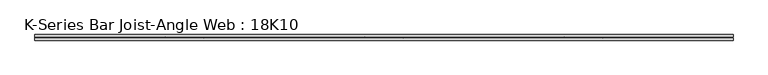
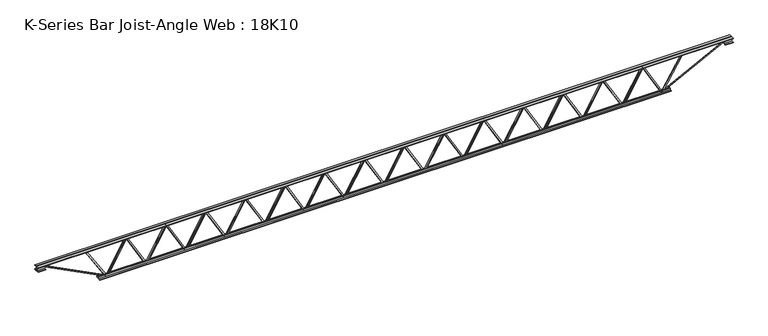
"""IFC4 building model written with IfcOpenShell, lengths in millimetres: beam geometry, K-Series Bar Joist-Angle Web : 18K10."""

import ifcopenshell
import ifcopenshell.guid

model = None  # the IFC model being written
_history = None  # IfcOwnerHistory: only IFC2X3 demands one
_inside = {}  # id of a spatial element -> (the spatial element, [elements in it])
_under = {}  # id of a project, library or spatial element -> (it, [spatial elements below it])
_declared = {}  # id of a project -> (the project, [libraries it declares])
_typed = {}  # id of a type object -> (the type object, [elements of that type])
_made_of = {}  # id of a material, layer set ... -> (it, [elements and type objects made of it])


def new_model(schema):
    """Start an empty IFC model of exactly this schema.

    Asked for "IFC4X3", IfcOpenShell would pick the latest addendum, in which some entities
    have other attributes; the version numbers below select the first issue.
    IFC2X3 requires an IfcOwnerHistory on every rooted entity: one is made here for all.
    """
    global model, _history
    if schema == "IFC4X3":
        model = ifcopenshell.file(schema_version=(4, 3, 0, 0))
    else:
        model = ifcopenshell.file(schema=schema)
    _inside.clear()
    _under.clear()
    _declared.clear()
    _typed.clear()
    _made_of.clear()
    _history = None
    if model.schema == "IFC2X3":
        org = make("IfcOrganization", Name="unknown")
        user = make(
            "IfcPersonAndOrganization",
            ThePerson=make("IfcPerson", FamilyName="unknown"),
            TheOrganization=org,
        )
        app = make(
            "IfcApplication",
            ApplicationDeveloper=org,
            Version="unknown",
            ApplicationFullName="unknown",
            ApplicationIdentifier="unknown",
        )
        _history = make(
            "IfcOwnerHistory",
            OwningUser=user,
            OwningApplication=app,
            ChangeAction="ADDED",
            CreationDate=0,
        )
    return model


def make(cls, **values):
    """One entity of the class cls with the attributes given. An attribute that is None is left unset."""
    return model.create_entity(
        cls, **{name: value for name, value in values.items() if value is not None}
    )


def rooted(cls, **values):
    """An entity with a GlobalId (a new one), such as an element, a storey or a relation."""
    return make(cls, GlobalId=ifcopenshell.guid.new(), OwnerHistory=_history, **values)


def si_unit(unit_type, name, prefix=None):
    """IfcSIUnit, for example si_unit("LENGTHUNIT", "METRE", prefix="MILLI")."""
    return make("IfcSIUnit", UnitType=unit_type, Prefix=prefix, Name=name)


def assignment(units):
    """IfcUnitAssignment: the units of a project."""
    return None if units is None else make("IfcUnitAssignment", Units=units)


def point(xyz):
    """IfcCartesianPoint."""
    return None if xyz is None else make("IfcCartesianPoint", Coordinates=xyz)


def direction(xyz):
    """IfcDirection."""
    return None if xyz is None else make("IfcDirection", DirectionRatios=xyz)


def frame(location, z_axis=None, x_axis=None):
    """IfcAxis2Placement3D, a coordinate frame: its origin and axes. An axis left out is left unset."""
    return make(
        "IfcAxis2Placement3D",
        Location=point(location),
        Axis=direction(z_axis),
        RefDirection=direction(x_axis),
    )


def origin():
    """The frame at (0, 0, 0) with its axes left unset."""
    return frame((0.0, 0.0, 0.0))


def place(relative_to, where):
    """IfcLocalPlacement: puts the frame where relative to a parent placement (None: the world)."""
    return make(
        "IfcLocalPlacement", PlacementRelTo=relative_to, RelativePlacement=where
    )


def context(
    kind, dimensions, precision=None, world=None, true_north=None, identifier=None
):
    """IfcGeometricRepresentationContext, for example the 3D "Model" context."""
    return make(
        "IfcGeometricRepresentationContext",
        ContextIdentifier=identifier,
        ContextType=kind,
        CoordinateSpaceDimension=dimensions,
        Precision=precision,
        WorldCoordinateSystem=world,
        TrueNorth=true_north,
    )


def project(units=None, contexts=None):
    """IfcProject with its units and contexts."""
    return rooted(
        "IfcProject",
        Name="project",
        RepresentationContexts=contexts,
        UnitsInContext=assignment(units),
    )


def spatial(cls, under=None, at=None, **own):
    """A site, building, storey or space (cls), placed at a placement, below another one or the project."""
    s = rooted(cls, ObjectPlacement=at, **own)
    if under is not None:
        _under.setdefault(under.id(), (under, []))[1].append(s)
    return s


def polyline(points):
    """IfcPolyline through the points."""
    return make("IfcPolyline", Points=[point(p) for p in points])


def outline(outer, holes=None, kind="AREA"):
    """IfcArbitraryClosedProfileDef: a profile drawn as a closed curve; with holes, ...WithVoids."""
    if holes is None:
        return make("IfcArbitraryClosedProfileDef", ProfileType=kind, OuterCurve=outer)
    return make(
        "IfcArbitraryProfileDefWithVoids",
        ProfileType=kind,
        OuterCurve=outer,
        InnerCurves=holes,
    )


def extrude(swept, where, along, depth):
    """IfcExtrudedAreaSolid: the profile swept, set in the frame where, extruded along a direction by depth."""
    return make(
        "IfcExtrudedAreaSolid",
        SweptArea=swept,
        Position=where,
        ExtrudedDirection=direction(along),
        Depth=depth,
    )


def faces_of(points, faces, orient=None, outer=None):
    """IfcFace entities. A face is a list of loops; a loop is a list of indices into points, from 0.

    orient and outer hold one flag for each loop. By default every Orientation is true, the
    first loop of a face is its IfcFaceOuterBound and the others are IfcFaceBound.
    """
    made = []
    for i, loops in enumerate(faces):
        bounds = []
        for j, loop in enumerate(loops):
            is_outer = j == 0 if outer is None else outer[i][j]
            bounds.append(
                make(
                    "IfcFaceOuterBound" if is_outer else "IfcFaceBound",
                    Bound=make("IfcPolyLoop", Polygon=[points[k] for k in loop]),
                    Orientation=True if orient is None else orient[i][j],
                )
            )
        made.append(make("IfcFace", Bounds=bounds))
    return made


def faceted_brep(points, faces, orient=None, outer=None, voids=None):
    """IfcFacetedBrep: a solid bounded by flat faces; with voids (closed shells), ...WithVoids."""
    shared = [point(p) for p in points]
    hull = make("IfcClosedShell", CfsFaces=faces_of(shared, faces, orient, outer))
    if voids is None:
        return make("IfcFacetedBrep", Outer=hull)
    return make(
        "IfcFacetedBrepWithVoids",
        Outer=hull,
        Voids=[
            make(cls, CfsFaces=faces_of(shared, fs, o, b)) for cls, fs, o, b in voids
        ],
    )


def shape(context_of_items, identifier, shape_type, items):
    """IfcShapeRepresentation: the items that make up one representation, for example the "Body"."""
    return make(
        "IfcShapeRepresentation",
        ContextOfItems=context_of_items,
        RepresentationIdentifier=identifier,
        RepresentationType=shape_type,
        Items=items,
    )


def source(mapping_origin, context_of_items, identifier, shape_type, items):
    """IfcRepresentationMap: a shape defined once, which mapped items show again and again."""
    return make(
        "IfcRepresentationMap",
        MappingOrigin=mapping_origin,
        MappedRepresentation=shape(context_of_items, identifier, shape_type, items),
    )


def transform(
    local_origin,
    x_axis=None,
    y_axis=None,
    z_axis=None,
    scale=None,
    scale2=None,
    scale3=None,
    uniform=True,
):
    """IfcCartesianTransformationOperator3D, or its non-uniform kind. x_axis, y_axis, z_axis: its Axis1, 2, 3."""
    if uniform:
        return make(
            "IfcCartesianTransformationOperator3D",
            Axis1=direction(x_axis),
            Axis2=direction(y_axis),
            LocalOrigin=point(local_origin),
            Scale=scale,
            Axis3=direction(z_axis),
        )
    return make(
        "IfcCartesianTransformationOperator3DnonUniform",
        Axis1=direction(x_axis),
        Axis2=direction(y_axis),
        LocalOrigin=point(local_origin),
        Scale=scale,
        Axis3=direction(z_axis),
        Scale2=scale2,
        Scale3=scale3,
    )


def mapped(mapping_source, mapping_target):
    """IfcMappedItem: shows the shape of a source again, moved by a transform."""
    return make(
        "IfcMappedItem", MappingSource=mapping_source, MappingTarget=mapping_target
    )


def made_of(thing, what):
    """Note that an element or type object is made of a material, layer set ...; save() writes the relation."""
    if what is not None:
        _made_of.setdefault(what.id(), (what, []))[1].append(thing)
    return thing


def element(
    cls,
    number,
    at=None,
    inside=None,
    cuts=None,
    type_object=None,
    material=None,
    context=None,
    identifier="Body",
    shape_type=None,
    held_by="IfcProductDefinitionShape",
    body=None,
    shapes=None,
    **own,
):
    """One element of the class cls, such as IfcWall. Its Tag is "e" and its number.

    at: its placement. inside: the storey or other place that contains it. cuts: it is an
    opening in that element (IfcRelVoidsElement). A single representation is given by context,
    identifier, shape_type and body (its items); several are given by shapes. held_by: the class
    of the entity that holds the representations. save() writes the other relations.
    """
    e = rooted(cls, Tag="e%d" % number, ObjectPlacement=at, **own)
    if body is not None:
        shapes = [shape(context, identifier, shape_type, body)]
    if shapes is not None:
        e.Representation = make(held_by, Representations=shapes)
    if inside is not None:
        _inside.setdefault(inside.id(), (inside, []))[1].append(e)
    if cuts is not None:
        rooted(
            "IfcRelVoidsElement", RelatingBuildingElement=cuts, RelatedOpeningElement=e
        )
    if type_object is not None:
        _typed.setdefault(type_object.id(), (type_object, []))[1].append(e)
    return made_of(e, material)


def aggregate(whole, parts):
    """IfcRelAggregates: a whole, such as a stair, and the parts it consists of."""
    return rooted("IfcRelAggregates", RelatingObject=whole, RelatedObjects=parts)


def save(model, path):
    """Write the relations noted so far, then the file.

    IfcRelAggregates (storeys below a building ...), IfcRelContainedInSpatialStructure (elements
    in a storey), IfcRelDefinesByType, IfcRelAssociatesMaterial and IfcRelDeclares: one each for
    every whole, place, type object, material and project.
    """
    for whole, parts in _under.values():
        aggregate(whole, parts)
    for where, things in _inside.values():
        rooted(
            "IfcRelContainedInSpatialStructure",
            RelatedElements=things,
            RelatingStructure=where,
        )
    for kind, things in _typed.values():
        rooted("IfcRelDefinesByType", RelatedObjects=things, RelatingType=kind)
    for what, things in _made_of.values():
        rooted("IfcRelAssociatesMaterial", RelatedObjects=things, RelatingMaterial=what)
    for by, libraries in _declared.values():
        rooted("IfcRelDeclares", RelatingContext=by, RelatedDefinitions=libraries)
    model.write(path)


def k_series_bar_joist_angle_web_18k10_a27430b0(model_context):
    return source(origin(), model_context, "Body", "SolidModel", [
        extrude(outline(polyline([(-4.75, 4.7625), (-4.75, 0.0), (-17.45, 0.0), (-17.45, 4.7625), (-4.75, 4.7625)])), frame((3103.8802606, 0.0, -190.4), z_axis=(-0.4990982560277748, 0.0, 0.8665454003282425), x_axis=(0.0, -1.0, 0.0)), (0.0, 0.0, 1.0), 439.4461039),
        extrude(outline(polyline([(-225.325, 3135.8516484), (-206.275, 3135.8516484), (-206.275, 3135.0075216), (225.325, 2886.4218073), (225.325, 2868.2159341), (206.275, 2868.2159341), (206.275, 2875.4100608), (-225.325, 3123.9957751), (-225.325, 3135.8516484)])), frame((0.0, 0.0, 0.0), z_axis=(0.0, 1.0, 0.0), x_axis=(0.0, 0.0, 1.0)), (0.0, 0.0, 1.0), 4.75),
        faceted_brep([(2613.2802198, 0.0, -206.275), (2613.2802198, 0.0, -225.325), (2613.2802198, -4.75, -225.325), (2613.2802198, -4.75, -206.275), (2614.1243466, 0.0, -206.275), (2862.7100608, 0.0, 225.325), (2880.9159341, 0.0, 225.325), (2880.9159341, 0.0, 206.275), (2873.7218073, 0.0, 206.275), (2625.136093, 0.0, -225.325), (2625.136093, -4.75, -225.325), (2645.2516075, -4.75, -190.4), (2641.1246851, -4.75, -188.0230446), (2860.4514691, -4.75, 192.7769554), (2864.5783916, -4.75, 190.4), (2873.7218073, -4.75, 206.275), (2880.9159341, -4.75, 206.275), (2880.9159341, -4.75, 225.325), (2862.7100608, -4.75, 225.325), (2614.1243466, -4.75, -206.275), (2864.5783916, -17.4625, 190.4), (2645.2516075, -17.4625, -190.4), (2641.1246851, -17.4625, -188.0230446), (2860.4514691, -17.4625, 192.7769554)], [[[0, 1, 2, 3]], [[1, 0, 4, 5, 6, 7, 8, 9]], [[2, 1, 9, 10]], [[3, 2, 10, 11, 12, 13, 14, 15, 16, 17, 18, 19]], [[0, 3, 19, 4]], [[9, 8, 15, 14, 20, 21, 11, 10]], [[5, 4, 19, 18]], [[7, 6, 17, 16]], [[8, 7, 16, 15]], [[6, 5, 18, 17]], [[21, 22, 12, 11]], [[20, 14, 13, 23]], [[22, 21, 20, 23]], [[12, 22, 23, 13]]]),
        extrude(outline(polyline([(-4.75, 4.7624999), (-4.75, 0.0), (-17.45, 0.0), (-17.45, 4.7624999), (-4.75, 4.7624999)])), frame((2581.231909, 0.0, -190.4), z_axis=(-0.4990982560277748, 0.0, 0.8665454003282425), x_axis=(0.0, -1.0, 0.0)), (0.0, 0.0, 1.0), 439.4461039),
        extrude(outline(polyline([(-225.325, 2613.2032967), (-206.275, 2613.2032967), (-206.275, 2612.3591699), (225.325, 2363.7734556), (225.325, 2345.5675824), (206.275, 2345.5675824), (206.275, 2352.7617092), (-225.325, 2601.3474235), (-225.325, 2613.2032967)])), frame((0.0, 0.0, 0.0), z_axis=(0.0, 1.0, 0.0), x_axis=(0.0, 0.0, 1.0)), (0.0, 0.0, 1.0), 4.75),
        faceted_brep([(2090.6318681, 0.0, -206.275), (2090.6318681, 0.0, -225.325), (2090.6318681, -4.75, -225.325), (2090.6318681, -4.75, -206.275), (2091.4759949, 0.0, -206.275), (2340.0617092, 0.0, 225.325), (2358.2675824, 0.0, 225.325), (2358.2675824, 0.0, 206.275), (2351.0734556, 0.0, 206.275), (2102.4877413, 0.0, -225.325), (2102.4877413, -4.75, -225.325), (2122.6032559, -4.75, -190.4), (2118.4763334, -4.75, -188.0230446), (2337.8031175, -4.75, 192.7769554), (2341.9300399, -4.75, 190.4), (2351.0734556, -4.75, 206.275), (2358.2675824, -4.75, 206.275), (2358.2675824, -4.75, 225.325), (2340.0617092, -4.75, 225.325), (2091.4759949, -4.75, -206.275), (2341.9300399, -17.4625, 190.4), (2122.6032559, -17.4625, -190.4), (2118.4763334, -17.4625, -188.0230446), (2337.8031175, -17.4625, 192.7769554)], [[[0, 1, 2, 3]], [[1, 0, 4, 5, 6, 7, 8, 9]], [[2, 1, 9, 10]], [[3, 2, 10, 11, 12, 13, 14, 15, 16, 17, 18, 19]], [[0, 3, 19, 4]], [[9, 8, 15, 14, 20, 21, 11, 10]], [[5, 4, 19, 18]], [[7, 6, 17, 16]], [[8, 7, 16, 15]], [[6, 5, 18, 17]], [[21, 22, 12, 11]], [[20, 14, 13, 23]], [[22, 21, 20, 23]], [[12, 22, 23, 13]]]),
        extrude(outline(polyline([(-4.75, 4.7625), (-4.75, 0.0), (-17.45, 0.0), (-17.45, 4.7625), (-4.75, 4.7625)])), frame((2058.5835573, 0.0, -190.4), z_axis=(-0.4990982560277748, 0.0, 0.8665454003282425), x_axis=(0.0, -1.0, 0.0)), (0.0, 0.0, 1.0), 439.4461039),
        extrude(outline(polyline([(-225.325, 2090.5549451), (-206.275, 2090.5549451), (-206.275, 2089.7108183), (225.325, 1841.125104), (225.325, 1822.9192308), (206.275, 1822.9192308), (206.275, 1830.1133576), (-225.325, 2078.6990718), (-225.325, 2090.5549451)])), frame((0.0, 0.0, 0.0), z_axis=(0.0, 1.0, 0.0), x_axis=(0.0, 0.0, 1.0)), (0.0, 0.0, 1.0), 4.75),
        faceted_brep([(1567.9835165, 0.0, -206.275), (1567.9835165, 0.0, -225.325), (1567.9835165, -4.75, -225.325), (1567.9835165, -4.75, -206.275), (1568.8276433, 0.0, -206.275), (1817.4133576, 0.0, 225.325), (1835.6192308, 0.0, 225.325), (1835.6192308, 0.0, 206.275), (1828.425104, 0.0, 206.275), (1579.8393897, 0.0, -225.325), (1579.8393897, -4.75, -225.325), (1599.9549042, -4.75, -190.4), (1595.8279818, -4.75, -188.0230446), (1815.1547658, -4.75, 192.7769554), (1819.2816883, -4.75, 190.4), (1828.425104, -4.75, 206.275), (1835.6192308, -4.75, 206.275), (1835.6192308, -4.75, 225.325), (1817.4133576, -4.75, 225.325), (1568.8276433, -4.75, -206.275), (1819.2816883, -17.4625, 190.4), (1599.9549042, -17.4625, -190.4), (1595.8279818, -17.4625, -188.0230446), (1815.1547658, -17.4625, 192.7769554)], [[[0, 1, 2, 3]], [[1, 0, 4, 5, 6, 7, 8, 9]], [[2, 1, 9, 10]], [[3, 2, 10, 11, 12, 13, 14, 15, 16, 17, 18, 19]], [[0, 3, 19, 4]], [[9, 8, 15, 14, 20, 21, 11, 10]], [[5, 4, 19, 18]], [[7, 6, 17, 16]], [[8, 7, 16, 15]], [[6, 5, 18, 17]], [[21, 22, 12, 11]], [[20, 14, 13, 23]], [[22, 21, 20, 23]], [[12, 22, 23, 13]]]),
        extrude(outline(polyline([(-4.75, 4.7624999), (-4.75, 0.0), (-17.45, 0.0), (-17.45, 4.7624999), (-4.75, 4.7624999)])), frame((1535.9352057, 0.0, -190.4), z_axis=(-0.4990982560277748, 0.0, 0.8665454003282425), x_axis=(0.0, -1.0, 0.0)), (0.0, 0.0, 1.0), 439.4461039),
        extrude(outline(polyline([(-225.325, 1567.9065934), (-206.275, 1567.9065934), (-206.275, 1567.0624666), (225.325, 1318.4767523), (225.325, 1300.2708791), (206.275, 1300.2708791), (206.275, 1307.4650059), (-225.325, 1556.0507202), (-225.325, 1567.9065934)])), frame((0.0, 0.0, 0.0), z_axis=(0.0, 1.0, 0.0), x_axis=(0.0, 0.0, 1.0)), (0.0, 0.0, 1.0), 4.75),
        faceted_brep([(1045.3351648, 0.0, -206.275), (1045.3351648, 0.0, -225.325), (1045.3351648, -4.75, -225.325), (1045.3351648, -4.75, -206.275), (1046.1792916, 0.0, -206.275), (1294.7650059, 0.0, 225.325), (1312.9708791, 0.0, 225.325), (1312.9708791, 0.0, 206.275), (1305.7767523, 0.0, 206.275), (1057.1910381, 0.0, -225.325), (1057.1910381, -4.75, -225.325), (1077.3065526, -4.75, -190.4), (1073.1796301, -4.75, -188.0230446), (1292.5064142, -4.75, 192.7769554), (1296.6333366, -4.75, 190.4), (1305.7767523, -4.75, 206.275), (1312.9708791, -4.75, 206.275), (1312.9708791, -4.75, 225.325), (1294.7650059, -4.75, 225.325), (1046.1792916, -4.75, -206.275), (1296.6333366, -17.4625, 190.4), (1077.3065526, -17.4625, -190.4), (1073.1796301, -17.4625, -188.0230446), (1292.5064142, -17.4625, 192.7769554)], [[[0, 1, 2, 3]], [[1, 0, 4, 5, 6, 7, 8, 9]], [[2, 1, 9, 10]], [[3, 2, 10, 11, 12, 13, 14, 15, 16, 17, 18, 19]], [[0, 3, 19, 4]], [[9, 8, 15, 14, 20, 21, 11, 10]], [[5, 4, 19, 18]], [[7, 6, 17, 16]], [[8, 7, 16, 15]], [[6, 5, 18, 17]], [[21, 22, 12, 11]], [[20, 14, 13, 23]], [[22, 21, 20, 23]], [[12, 22, 23, 13]]]),
        extrude(outline(polyline([(-4.75, 4.7625), (-4.75, 0.0), (-17.45, 0.0), (-17.45, 4.7625), (-4.75, 4.7625)])), frame((1013.286854, 0.0, -190.4), z_axis=(-0.4990982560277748, 0.0, 0.8665454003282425), x_axis=(0.0, -1.0, 0.0)), (0.0, 0.0, 1.0), 439.4461039),
        extrude(outline(polyline([(-225.325, 1045.2582418), (-206.275, 1045.2582418), (-206.275, 1044.414115), (225.325, 795.8284007), (225.325, 777.6225275), (206.275, 777.6225275), (206.275, 784.8166543), (-225.325, 1033.4023685), (-225.325, 1045.2582418)])), frame((0.0, 0.0, 0.0), z_axis=(0.0, 1.0, 0.0), x_axis=(0.0, 0.0, 1.0)), (0.0, 0.0, 1.0), 4.75),
        faceted_brep([(522.6868132, 0.0, -206.275), (522.6868132, 0.0, -225.325), (522.6868132, -4.75, -225.325), (522.6868132, -4.75, -206.275), (523.53094, 0.0, -206.275), (772.1166543, 0.0, 225.325), (790.3225275, 0.0, 225.325), (790.3225275, 0.0, 206.275), (783.1284007, 0.0, 206.275), (534.5426864, 0.0, -225.325), (534.5426864, -4.75, -225.325), (554.6582009, -4.75, -190.4), (550.5312785, -4.75, -188.0230446), (769.8580625, -4.75, 192.7769554), (773.984985, -4.75, 190.4), (783.1284007, -4.75, 206.275), (790.3225275, -4.75, 206.275), (790.3225275, -4.75, 225.325), (772.1166543, -4.75, 225.325), (523.53094, -4.75, -206.275), (773.984985, -17.4625, 190.4), (554.6582009, -17.4625, -190.4), (550.5312785, -17.4625, -188.0230446), (769.8580625, -17.4625, 192.7769554)], [[[0, 1, 2, 3]], [[1, 0, 4, 5, 6, 7, 8, 9]], [[2, 1, 9, 10]], [[3, 2, 10, 11, 12, 13, 14, 15, 16, 17, 18, 19]], [[0, 3, 19, 4]], [[9, 8, 15, 14, 20, 21, 11, 10]], [[5, 4, 19, 18]], [[7, 6, 17, 16]], [[8, 7, 16, 15]], [[6, 5, 18, 17]], [[21, 22, 12, 11]], [[20, 14, 13, 23]], [[22, 21, 20, 23]], [[12, 22, 23, 13]]]),
        extrude(outline(polyline([(-4.75, 4.7624999), (-4.75, 0.0), (-17.45, 0.0), (-17.45, 4.7624999), (-4.75, 4.7624999)])), frame((490.6385024, 0.0, -190.4), z_axis=(-0.4990982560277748, 0.0, 0.8665454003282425), x_axis=(0.0, -1.0, 0.0)), (0.0, 0.0, 1.0), 439.4461039),
        extrude(outline(polyline([(-225.325, 522.6098901), (-206.275, 522.6098901), (-206.275, 521.7657633), (225.325, 273.180049), (225.325, 254.9741758), (206.275, 254.9741758), (206.275, 262.1683026), (-225.325, 510.7540169), (-225.325, 522.6098901)])), frame((0.0, 0.0, 0.0), z_axis=(0.0, 1.0, 0.0), x_axis=(0.0, 0.0, 1.0)), (0.0, 0.0, 1.0), 4.75),
        faceted_brep([(0.0384615, 0.0, -206.275), (0.0384615, 0.0, -225.325), (0.0384615, -4.75, -225.325), (0.0384615, -4.75, -206.275), (0.8825883, 0.0, -206.275), (249.4683026, 0.0, 225.325), (267.6741758, 0.0, 225.325), (267.6741758, 0.0, 206.275), (260.480049, 0.0, 206.275), (11.8943348, 0.0, -225.325), (11.8943348, -4.75, -225.325), (32.0098493, -4.75, -190.4), (27.8829268, -4.75, -188.0230446), (247.2097109, -4.75, 192.7769554), (251.3366333, -4.75, 190.4), (260.480049, -4.75, 206.275), (267.6741758, -4.75, 206.275), (267.6741758, -4.75, 225.325), (249.4683026, -4.75, 225.325), (0.8825883, -4.75, -206.275), (251.3366333, -17.4625, 190.4), (32.0098493, -17.4625, -190.4), (27.8829268, -17.4625, -188.0230446), (247.2097109, -17.4625, 192.7769554)], [[[0, 1, 2, 3]], [[1, 0, 4, 5, 6, 7, 8, 9]], [[2, 1, 9, 10]], [[3, 2, 10, 11, 12, 13, 14, 15, 16, 17, 18, 19]], [[0, 3, 19, 4]], [[9, 8, 15, 14, 20, 21, 11, 10]], [[5, 4, 19, 18]], [[7, 6, 17, 16]], [[8, 7, 16, 15]], [[6, 5, 18, 17]], [[21, 22, 12, 11]], [[20, 14, 13, 23]], [[22, 21, 20, 23]], [[12, 22, 23, 13]]]),
        extrude(outline(polyline([(-4.75, 4.7625), (-4.75, 0.0), (-17.45, 0.0), (-17.45, 4.7625), (-4.75, 4.7625)])), frame((-32.0098493, 0.0, -190.4), z_axis=(-0.4990982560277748, 0.0, 0.8665454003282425), x_axis=(0.0, -1.0, 0.0)), (0.0, 0.0, 1.0), 439.4461039),
        extrude(outline(polyline([(-225.325, -0.0384615), (-206.275, -0.0384615), (-206.275, -0.8825883), (225.325, -249.4683026), (225.325, -267.6741758), (206.275, -267.6741758), (206.275, -260.480049), (-225.325, -11.8943348), (-225.325, -0.0384615)])), frame((0.0, 0.0, 0.0), z_axis=(0.0, 1.0, 0.0), x_axis=(0.0, 0.0, 1.0)), (0.0, 0.0, 1.0), 4.75),
        faceted_brep([(-522.6098901, 0.0, -206.275), (-522.6098901, 0.0, -225.325), (-522.6098901, -4.75, -225.325), (-522.6098901, -4.75, -206.275), (-521.7657633, 0.0, -206.275), (-273.180049, 0.0, 225.325), (-254.9741758, 0.0, 225.325), (-254.9741758, 0.0, 206.275), (-262.1683026, 0.0, 206.275), (-510.7540169, 0.0, -225.325), (-510.7540169, -4.75, -225.325), (-490.6385024, -4.75, -190.4), (-494.7654248, -4.75, -188.0230446), (-275.4386408, -4.75, 192.7769554), (-271.3117183, -4.75, 190.4), (-262.1683026, -4.75, 206.275), (-254.9741758, -4.75, 206.275), (-254.9741758, -4.75, 225.325), (-273.180049, -4.75, 225.325), (-521.7657633, -4.75, -206.275), (-271.3117183, -17.4625, 190.4), (-490.6385024, -17.4625, -190.4), (-494.7654248, -17.4625, -188.0230446), (-275.4386408, -17.4625, 192.7769554)], [[[0, 1, 2, 3]], [[1, 0, 4, 5, 6, 7, 8, 9]], [[2, 1, 9, 10]], [[3, 2, 10, 11, 12, 13, 14, 15, 16, 17, 18, 19]], [[0, 3, 19, 4]], [[9, 8, 15, 14, 20, 21, 11, 10]], [[5, 4, 19, 18]], [[7, 6, 17, 16]], [[8, 7, 16, 15]], [[6, 5, 18, 17]], [[21, 22, 12, 11]], [[20, 14, 13, 23]], [[22, 21, 20, 23]], [[12, 22, 23, 13]]]),
        extrude(outline(polyline([(-4.75, 4.7624999), (-4.75, 0.0), (-17.45, 0.0), (-17.45, 4.7624999), (-4.75, 4.7624999)])), frame((-554.6582009, 0.0, -190.4), z_axis=(-0.4990982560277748, 0.0, 0.8665454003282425), x_axis=(0.0, -1.0, 0.0)), (0.0, 0.0, 1.0), 439.4461039),
        extrude(outline(polyline([(-225.325, -522.6868132), (-206.275, -522.6868132), (-206.275, -523.53094), (225.325, -772.1166543), (225.325, -790.3225275), (206.275, -790.3225275), (206.275, -783.1284007), (-225.325, -534.5426864), (-225.325, -522.6868132)])), frame((0.0, 0.0, 0.0), z_axis=(0.0, 1.0, 0.0), x_axis=(0.0, 0.0, 1.0)), (0.0, 0.0, 1.0), 4.75),
        faceted_brep([(-1045.2582418, 0.0, -206.275), (-1045.2582418, 0.0, -225.325), (-1045.2582418, -4.75, -225.325), (-1045.2582418, -4.75, -206.275), (-1044.414115, 0.0, -206.275), (-795.8284007, 0.0, 225.325), (-777.6225275, 0.0, 225.325), (-777.6225275, 0.0, 206.275), (-784.8166543, 0.0, 206.275), (-1033.4023685, 0.0, -225.325), (-1033.4023685, -4.75, -225.325), (-1013.286854, -4.75, -190.4), (-1017.4137765, -4.75, -188.0230446), (-798.0869924, -4.75, 192.7769554), (-793.96007, -4.75, 190.4), (-784.8166543, -4.75, 206.275), (-777.6225275, -4.75, 206.275), (-777.6225275, -4.75, 225.325), (-795.8284007, -4.75, 225.325), (-1044.414115, -4.75, -206.275), (-793.96007, -17.4625, 190.4), (-1013.286854, -17.4625, -190.4), (-1017.4137765, -17.4625, -188.0230446), (-798.0869924, -17.4625, 192.7769554)], [[[0, 1, 2, 3]], [[1, 0, 4, 5, 6, 7, 8, 9]], [[2, 1, 9, 10]], [[3, 2, 10, 11, 12, 13, 14, 15, 16, 17, 18, 19]], [[0, 3, 19, 4]], [[9, 8, 15, 14, 20, 21, 11, 10]], [[5, 4, 19, 18]], [[7, 6, 17, 16]], [[8, 7, 16, 15]], [[6, 5, 18, 17]], [[21, 22, 12, 11]], [[20, 14, 13, 23]], [[22, 21, 20, 23]], [[12, 22, 23, 13]]]),
        extrude(outline(polyline([(-4.75, 4.7625), (-4.75, 0.0), (-17.45, 0.0), (-17.45, 4.7625), (-4.75, 4.7625)])), frame((-1077.3065526, 0.0, -190.4), z_axis=(-0.4990982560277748, 0.0, 0.8665454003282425), x_axis=(0.0, -1.0, 0.0)), (0.0, 0.0, 1.0), 439.4461039),
        extrude(outline(polyline([(-225.325, -1045.3351648), (-206.275, -1045.3351648), (-206.275, -1046.1792916), (225.325, -1294.7650059), (225.325, -1312.9708791), (206.275, -1312.9708791), (206.275, -1305.7767523), (-225.325, -1057.1910381), (-225.325, -1045.3351648)])), frame((0.0, 0.0, 0.0), z_axis=(0.0, 1.0, 0.0), x_axis=(0.0, 0.0, 1.0)), (0.0, 0.0, 1.0), 4.75),
        faceted_brep([(-1567.9065934, 0.0, -206.275), (-1567.9065934, 0.0, -225.325), (-1567.9065934, -4.75, -225.325), (-1567.9065934, -4.75, -206.275), (-1567.0624666, 0.0, -206.275), (-1318.4767523, 0.0, 225.325), (-1300.2708791, 0.0, 225.325), (-1300.2708791, 0.0, 206.275), (-1307.4650059, 0.0, 206.275), (-1556.0507202, 0.0, -225.325), (-1556.0507202, -4.75, -225.325), (-1535.9352057, -4.75, -190.4), (-1540.0621281, -4.75, -188.0230446), (-1320.7353441, -4.75, 192.7769554), (-1316.6084216, -4.75, 190.4), (-1307.4650059, -4.75, 206.275), (-1300.2708791, -4.75, 206.275), (-1300.2708791, -4.75, 225.325), (-1318.4767523, -4.75, 225.325), (-1567.0624666, -4.75, -206.275), (-1316.6084216, -17.4625, 190.4), (-1535.9352057, -17.4625, -190.4), (-1540.0621281, -17.4625, -188.0230446), (-1320.7353441, -17.4625, 192.7769554)], [[[0, 1, 2, 3]], [[1, 0, 4, 5, 6, 7, 8, 9]], [[2, 1, 9, 10]], [[3, 2, 10, 11, 12, 13, 14, 15, 16, 17, 18, 19]], [[0, 3, 19, 4]], [[9, 8, 15, 14, 20, 21, 11, 10]], [[5, 4, 19, 18]], [[7, 6, 17, 16]], [[8, 7, 16, 15]], [[6, 5, 18, 17]], [[21, 22, 12, 11]], [[20, 14, 13, 23]], [[22, 21, 20, 23]], [[12, 22, 23, 13]]]),
        extrude(outline(polyline([(-4.75, 4.7624999), (-4.75, 0.0), (-17.45, 0.0), (-17.45, 4.7624999), (-4.75, 4.7624999)])), frame((-1599.9549042, 0.0, -190.4), z_axis=(-0.4990982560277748, 0.0, 0.8665454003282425), x_axis=(0.0, -1.0, 0.0)), (0.0, 0.0, 1.0), 439.4461039),
        extrude(outline(polyline([(-225.325, -1567.9835165), (-206.275, -1567.9835165), (-206.275, -1568.8276433), (225.325, -1817.4133576), (225.325, -1835.6192308), (206.275, -1835.6192308), (206.275, -1828.425104), (-225.325, -1579.8393897), (-225.325, -1567.9835165)])), frame((0.0, 0.0, 0.0), z_axis=(0.0, 1.0, 0.0), x_axis=(0.0, 0.0, 1.0)), (0.0, 0.0, 1.0), 4.75),
        faceted_brep([(-2090.5549451, 0.0, -206.275), (-2090.5549451, 0.0, -225.325), (-2090.5549451, -4.75, -225.325), (-2090.5549451, -4.75, -206.275), (-2089.7108183, 0.0, -206.275), (-1841.125104, 0.0, 225.325), (-1822.9192308, 0.0, 225.325), (-1822.9192308, 0.0, 206.275), (-1830.1133576, 0.0, 206.275), (-2078.6990718, 0.0, -225.325), (-2078.6990718, -4.75, -225.325), (-2058.5835573, -4.75, -190.4), (-2062.7104798, -4.75, -188.0230446), (-1843.3836957, -4.75, 192.7769554), (-1839.2567732, -4.75, 190.4), (-1830.1133576, -4.75, 206.275), (-1822.9192308, -4.75, 206.275), (-1822.9192308, -4.75, 225.325), (-1841.125104, -4.75, 225.325), (-2089.7108183, -4.75, -206.275), (-1839.2567732, -17.4625, 190.4), (-2058.5835573, -17.4625, -190.4), (-2062.7104798, -17.4625, -188.0230446), (-1843.3836957, -17.4625, 192.7769554)], [[[0, 1, 2, 3]], [[1, 0, 4, 5, 6, 7, 8, 9]], [[2, 1, 9, 10]], [[3, 2, 10, 11, 12, 13, 14, 15, 16, 17, 18, 19]], [[0, 3, 19, 4]], [[9, 8, 15, 14, 20, 21, 11, 10]], [[5, 4, 19, 18]], [[7, 6, 17, 16]], [[8, 7, 16, 15]], [[6, 5, 18, 17]], [[21, 22, 12, 11]], [[20, 14, 13, 23]], [[22, 21, 20, 23]], [[12, 22, 23, 13]]]),
        extrude(outline(polyline([(-4.75, 4.7625), (-4.75, 0.0), (-17.45, 0.0), (-17.45, 4.7625), (-4.75, 4.7625)])), frame((-2122.6032559, 0.0, -190.4), z_axis=(-0.4990982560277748, 0.0, 0.8665454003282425), x_axis=(0.0, -1.0, 0.0)), (0.0, 0.0, 1.0), 439.4461039),
        extrude(outline(polyline([(-225.325, -2090.6318681), (-206.275, -2090.6318681), (-206.275, -2091.4759949), (225.325, -2340.0617092), (225.325, -2358.2675824), (206.275, -2358.2675824), (206.275, -2351.0734556), (-225.325, -2102.4877413), (-225.325, -2090.6318681)])), frame((0.0, 0.0, 0.0), z_axis=(0.0, 1.0, 0.0), x_axis=(0.0, 0.0, 1.0)), (0.0, 0.0, 1.0), 4.75),
        faceted_brep([(-2613.2032967, 0.0, -206.275), (-2613.2032967, 0.0, -225.325), (-2613.2032967, -4.75, -225.325), (-2613.2032967, -4.75, -206.275), (-2612.3591699, 0.0, -206.275), (-2363.7734556, 0.0, 225.325), (-2345.5675824, 0.0, 225.325), (-2345.5675824, 0.0, 206.275), (-2352.7617092, 0.0, 206.275), (-2601.3474235, 0.0, -225.325), (-2601.3474235, -4.75, -225.325), (-2581.231909, -4.75, -190.4), (-2585.3588314, -4.75, -188.0230446), (-2366.0320474, -4.75, 192.7769554), (-2361.9051249, -4.75, 190.4), (-2352.7617092, -4.75, 206.275), (-2345.5675824, -4.75, 206.275), (-2345.5675824, -4.75, 225.325), (-2363.7734556, -4.75, 225.325), (-2612.3591699, -4.75, -206.275), (-2361.9051249, -17.4625, 190.4), (-2581.231909, -17.4625, -190.4), (-2585.3588314, -17.4625, -188.0230446), (-2366.0320474, -17.4625, 192.7769554)], [[[0, 1, 2, 3]], [[1, 0, 4, 5, 6, 7, 8, 9]], [[2, 1, 9, 10]], [[3, 2, 10, 11, 12, 13, 14, 15, 16, 17, 18, 19]], [[0, 3, 19, 4]], [[9, 8, 15, 14, 20, 21, 11, 10]], [[5, 4, 19, 18]], [[7, 6, 17, 16]], [[8, 7, 16, 15]], [[6, 5, 18, 17]], [[21, 22, 12, 11]], [[20, 14, 13, 23]], [[22, 21, 20, 23]], [[12, 22, 23, 13]]]),
        extrude(outline(polyline([(-4.75, 4.7624999), (-4.75, 0.0), (-17.45, 0.0), (-17.45, 4.7624999), (-4.75, 4.7624999)])), frame((-2645.2516075, 0.0, -190.4), z_axis=(-0.4990982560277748, 0.0, 0.8665454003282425), x_axis=(0.0, -1.0, 0.0)), (0.0, 0.0, 1.0), 439.4461039),
        extrude(outline(polyline([(-225.325, -2613.2802198), (-206.275, -2613.2802198), (-206.275, -2614.1243466), (225.325, -2862.7100608), (225.325, -2880.9159341), (206.275, -2880.9159341), (206.275, -2873.7218073), (-225.325, -2625.136093), (-225.325, -2613.2802198)])), frame((0.0, 0.0, 0.0), z_axis=(0.0, 1.0, 0.0), x_axis=(0.0, 0.0, 1.0)), (0.0, 0.0, 1.0), 4.75),
        faceted_brep([(-3135.8516484, 0.0, -206.275), (-3135.8516484, 0.0, -225.325), (-3135.8516484, -4.75, -225.325), (-3135.8516484, -4.75, -206.275), (-3135.0075216, 0.0, -206.275), (-2886.4218073, 0.0, 225.325), (-2868.2159341, 0.0, 225.325), (-2868.2159341, 0.0, 206.275), (-2875.4100608, 0.0, 206.275), (-3123.9957751, 0.0, -225.325), (-3123.9957751, -4.75, -225.325), (-3103.8802606, -4.75, -190.4), (-3108.0071831, -4.75, -188.0230446), (-2888.680399, -4.75, 192.7769554), (-2884.5534765, -4.75, 190.4), (-2875.4100608, -4.75, 206.275), (-2868.2159341, -4.75, 206.275), (-2868.2159341, -4.75, 225.325), (-2886.4218073, -4.75, 225.325), (-3135.0075216, -4.75, -206.275), (-2884.5534765, -17.4625, 190.4), (-3103.8802606, -17.4625, -190.4), (-3108.0071831, -17.4625, -188.0230446), (-2888.680399, -17.4625, 192.7769554)], [[[0, 1, 2, 3]], [[1, 0, 4, 5, 6, 7, 8, 9]], [[2, 1, 9, 10]], [[3, 2, 10, 11, 12, 13, 14, 15, 16, 17, 18, 19]], [[0, 3, 19, 4]], [[9, 8, 15, 14, 20, 21, 11, 10]], [[5, 4, 19, 18]], [[7, 6, 17, 16]], [[8, 7, 16, 15]], [[6, 5, 18, 17]], [[21, 22, 12, 11]], [[20, 14, 13, 23]], [[22, 21, 20, 23]], [[12, 22, 23, 13]]]),
        extrude(outline(polyline([(-4.75, 4.7624999), (-4.75, 0.0), (-17.45, 0.0), (-17.45, 4.7624999), (-4.75, 4.7624999)])), frame((3626.5286123, 0.0, -190.4), z_axis=(-0.4990982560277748, 0.0, 0.8665454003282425), x_axis=(0.0, -1.0, 0.0)), (0.0, 0.0, 1.0), 439.4461039),
        extrude(outline(polyline([(-225.325, 3658.5), (-206.275, 3658.5), (-206.275, 3657.6558732), (225.325, 3409.0701589), (225.325, 3390.8642857), (206.275, 3390.8642857), (206.275, 3398.0584125), (-225.325, 3646.6441268), (-225.325, 3658.5)])), frame((0.0, 0.0, 0.0), z_axis=(0.0, 1.0, 0.0), x_axis=(0.0, 0.0, 1.0)), (0.0, 0.0, 1.0), 4.75),
        faceted_brep([(3135.9285714, 0.0, -206.275), (3135.9285714, 0.0, -225.325), (3135.9285714, -4.75, -225.325), (3135.9285714, -4.75, -206.275), (3136.7726982, 0.0, -206.275), (3385.3584125, 0.0, 225.325), (3403.5642857, 0.0, 225.325), (3403.5642857, 0.0, 206.275), (3396.3701589, 0.0, 206.275), (3147.7844446, 0.0, -225.325), (3147.7844446, -4.75, -225.325), (3167.8999592, -4.75, -190.4), (3163.7730367, -4.75, -188.0230446), (3383.0998208, -4.75, 192.7769554), (3387.2267432, -4.75, 190.4), (3396.3701589, -4.75, 206.275), (3403.5642857, -4.75, 206.275), (3403.5642857, -4.75, 225.325), (3385.3584125, -4.75, 225.325), (3136.7726982, -4.75, -206.275), (3387.2267432, -17.4625, 190.4), (3167.8999592, -17.4625, -190.4), (3163.7730367, -17.4625, -188.0230446), (3383.0998208, -17.4625, 192.7769554)], [[[0, 1, 2, 3]], [[1, 0, 4, 5, 6, 7, 8, 9]], [[2, 1, 9, 10]], [[3, 2, 10, 11, 12, 13, 14, 15, 16, 17, 18, 19]], [[0, 3, 19, 4]], [[9, 8, 15, 14, 20, 21, 11, 10]], [[5, 4, 19, 18]], [[7, 6, 17, 16]], [[8, 7, 16, 15]], [[6, 5, 18, 17]], [[21, 22, 12, 11]], [[20, 14, 13, 23]], [[22, 21, 20, 23]], [[12, 22, 23, 13]]]),
        extrude(outline(polyline([(-4.75, 4.7625), (-4.75, 0.0), (-17.45, 0.0), (-17.45, 4.7625), (-4.75, 4.7625)])), frame((-3167.8999592, 0.0, -190.4), z_axis=(-0.4990982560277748, 0.0, 0.8665454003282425), x_axis=(0.0, -1.0, 0.0)), (0.0, 0.0, 1.0), 439.4461039),
        extrude(outline(polyline([(-225.325, -3135.9285714), (-206.275, -3135.9285714), (-206.275, -3136.7726982), (225.325, -3385.3584125), (225.325, -3403.5642857), (206.275, -3403.5642857), (206.275, -3396.3701589), (-225.325, -3147.7844446), (-225.325, -3135.9285714)])), frame((0.0, 0.0, 0.0), z_axis=(0.0, 1.0, 0.0), x_axis=(0.0, 0.0, 1.0)), (0.0, 0.0, 1.0), 4.75),
        faceted_brep([(-3658.5, 0.0, -206.275), (-3658.5, 0.0, -225.325), (-3658.5, -4.75, -225.325), (-3658.5, -4.75, -206.275), (-3657.6558732, 0.0, -206.275), (-3409.0701589, 0.0, 225.325), (-3390.8642857, 0.0, 225.325), (-3390.8642857, 0.0, 206.275), (-3398.0584125, 0.0, 206.275), (-3646.6441268, 0.0, -225.325), (-3646.6441268, -4.75, -225.325), (-3626.5286123, -4.75, -190.4), (-3630.6555347, -4.75, -188.0230446), (-3411.3287507, -4.75, 192.7769554), (-3407.2018282, -4.75, 190.4), (-3398.0584125, -4.75, 206.275), (-3390.8642857, -4.75, 206.275), (-3390.8642857, -4.75, 225.325), (-3409.0701589, -4.75, 225.325), (-3657.6558732, -4.75, -206.275), (-3407.2018282, -17.4625, 190.4), (-3626.5286123, -17.4625, -190.4), (-3630.6555347, -17.4625, -188.0230446), (-3411.3287507, -17.4625, 192.7769554)], [[[0, 1, 2, 3]], [[1, 0, 4, 5, 6, 7, 8, 9]], [[2, 1, 9, 10]], [[3, 2, 10, 11, 12, 13, 14, 15, 16, 17, 18, 19]], [[0, 3, 19, 4]], [[9, 8, 15, 14, 20, 21, 11, 10]], [[5, 4, 19, 18]], [[7, 6, 17, 16]], [[8, 7, 16, 15]], [[6, 5, 18, 17]], [[21, 22, 12, 11]], [[20, 14, 13, 23]], [[22, 21, 20, 23]], [[12, 22, 23, 13]]]),
        extrude(outline(polyline([(4.75, 228.5), (36.75, 228.5), (36.75, 222.0), (11.25, 222.0), (11.25, 196.5), (4.75, 196.5), (4.75, 228.5)])), frame((-4572.5, 0.0, 0.0), z_axis=(1.0, 0.0, 0.0), x_axis=(0.0, 1.0, 0.0)), (0.0, 0.0, 1.0), 9145.0),
        extrude(outline(polyline([(-4.75, 228.5), (-4.75, 196.5), (-11.25, 196.5), (-11.25, 222.0), (-36.75, 222.0), (-36.75, 228.5), (-4.75, 228.5)])), frame((-4572.5, 0.0, 0.0), z_axis=(1.0, 0.0, 0.0), x_axis=(0.0, 1.0, 0.0)), (0.0, 0.0, 1.0), 9145.0),
        extrude(outline(polyline([(4.75, -228.5), (4.75, -196.5), (11.25, -196.5), (11.25, -222.0), (36.75, -222.0), (36.75, -228.5), (4.75, -228.5)])), frame((-3758.5, 0.0, 0.0), z_axis=(1.0, 0.0, 0.0), x_axis=(0.0, 1.0, 0.0)), (0.0, 0.0, 1.0), 7517.0),
        extrude(outline(polyline([(-4.75, -228.5), (-36.75, -228.5), (-36.75, -222.0), (-11.25, -222.0), (-11.25, -196.5), (-4.75, -196.5), (-4.75, -228.5)])), frame((-3758.5, 0.0, 0.0), z_axis=(1.0, 0.0, 0.0), x_axis=(0.0, 1.0, 0.0)), (0.0, 0.0, 1.0), 7517.0),
        extrude(outline(polyline([(4.75, 165.0), (4.75, 196.5), (11.25, 196.5), (11.25, 171.5), (36.75, 171.5), (36.75, 165.0), (4.75, 165.0)])), frame((4472.5, 0.0, 0.0), z_axis=(1.0, 0.0, 0.0), x_axis=(0.0, 1.0, 0.0)), (0.0, 0.0, 1.0), 100.0),
        extrude(outline(polyline([(-4.75, 165.0), (-36.75, 165.0), (-36.75, 171.5), (-11.25, 171.5), (-11.25, 196.5), (-4.75, 196.5), (-4.75, 165.0)])), frame((4472.5, 0.0, 0.0), z_axis=(1.0, 0.0, 0.0), x_axis=(0.0, 1.0, 0.0)), (0.0, 0.0, 1.0), 100.0),
        extrude(outline(polyline([(-4.75, 165.0), (-36.75, 165.0), (-36.75, 171.5), (-11.25, 171.5), (-11.25, 196.5), (-4.75, 196.5), (-4.75, 165.0)])), frame((-4572.5, 0.0, 0.0), z_axis=(1.0, 0.0, 0.0), x_axis=(0.0, 1.0, 0.0)), (0.0, 0.0, 1.0), 100.0),
        extrude(outline(polyline([(36.75, 165.0), (4.75, 165.0), (4.75, 196.5), (11.25, 196.5), (11.25, 171.5), (36.75, 171.5), (36.75, 165.0)])), frame((-4572.5, 0.0, 0.0), z_axis=(1.0, 0.0, 0.0), x_axis=(0.0, 1.0, 0.0)), (0.0, 0.0, 1.0), 100.0),
        extrude(outline(polyline([(219.4566712, -3939.7428571), (200.4066712, -3939.7428571), (200.4066712, -3932.0670103), (-226.9275018, -3666.1783639), (-216.8635739, -3650.0036968), (219.4566712, -3921.4835051), (219.4566712, -3939.7428571)])), frame((0.0, 0.0, 0.0), z_axis=(0.0, 1.0, 0.0), x_axis=(0.0, 0.0, 1.0)), (0.0, 0.0, 1.0), 4.7625),
        extrude(outline(polyline([(-4.7625, -10.5646147), (-4.7625, 8.4853854), (0.0, 8.4853854), (0.0, -10.5646147), (-4.7625, -10.5646147)])), frame((3658.5, 0.0, -222.15), z_axis=(0.5294589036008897, 0.0, 0.8483355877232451), x_axis=(0.0, -1.0, 0.0)), (0.0, 0.0, 1.0), 493.4957416),
        extrude(outline(polyline([(-226.3740718, -3660.672491), (-217.9259282, -3656.327509), (201.25, -4471.3500948), (201.25, -4572.5), (191.75, -4572.5), (191.75, -4473.6499052), (-226.3740718, -3660.672491)])), frame((0.0, -4.75, 0.0), z_axis=(0.0, 1.0, 0.0), x_axis=(0.0, 0.0, 1.0)), (0.0, 0.0, 1.0), 9.5),
        extrude(outline(polyline([(0.0, -9.5), (0.0, 0.0), (915.3490168, 0.0), (915.3490168, -9.5), (0.0, -9.5)])), frame((4474.672491, -4.75, 192.2759282), z_axis=(-0.4573665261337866, 0.0, 0.8892782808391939), x_axis=(-0.8892782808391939, 0.0, -0.4573665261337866)), (0.0, 0.0, 1.0), 9.5),
    ])


if __name__ == "__main__":
    model = new_model("IFC4")
    model_context = context("Model", 3, world=origin())
    ifc_project = project(units=[si_unit("LENGTHUNIT", "METRE", prefix="MILLI")], contexts=[model_context])
    site = spatial("IfcSite", under=ifc_project)
    building = spatial("IfcBuilding", under=site)
    placement = place(None, origin())
    k_series_bar_joist_angle_web_18k10_shape = k_series_bar_joist_angle_web_18k10_a27430b0(model_context)
    element("IfcBeam", 1, ObjectType="K-Series Bar Joist-Angle Web : 18K10", at=placement, inside=building, context=model_context, shape_type="MappedRepresentation", body=[
        mapped(k_series_bar_joist_angle_web_18k10_shape, transform((0.0, 0.0, 0.0), x_axis=(1.0, 0.0, 0.0), y_axis=(0.0, 1.0, 0.0), z_axis=(0.0, 0.0, 1.0))),
    ])
    save(model, "model.ifc")
